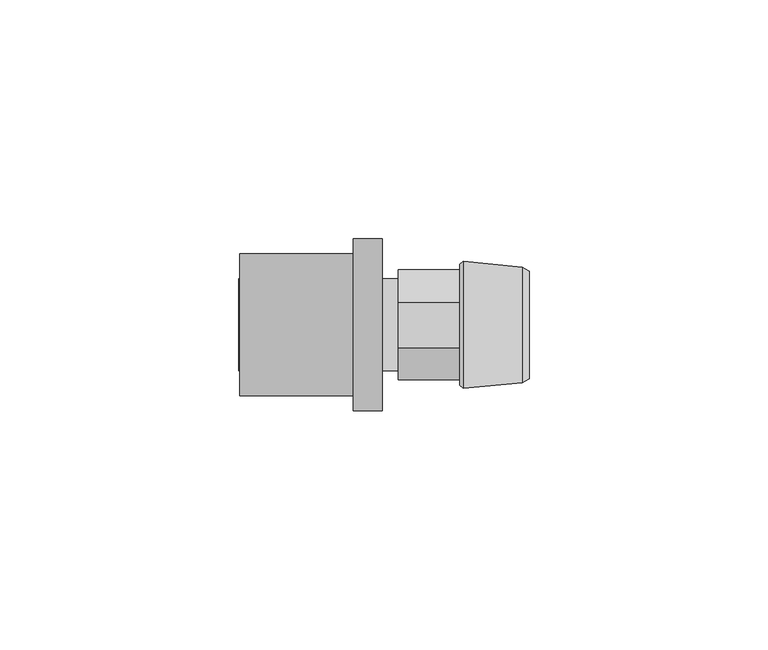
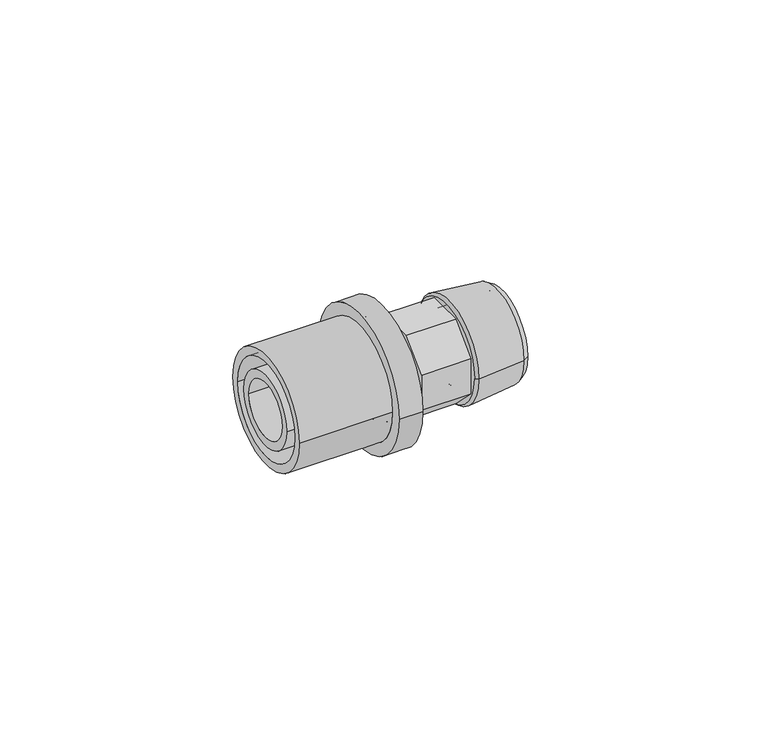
"""IFC4 building model written with IfcOpenShell, lengths in millimetres: pipe fitting geometry, FASTLOC_Adapter_RX+, with external thread : FSL A C external EX+ AT."""

from ifc_helpers import new_model, si_unit, frame, origin, place, context, project, spatial, polyline, circle_curve, outline, extrude, source, transform, mapped, element, save
from ifc_brep_helpers import plane_surface, cylinder_surface, revolved_surface, advanced_brep


def pipe_fitting_034b971a(model_context):
    return source(origin(), model_context, "Body", "SolidModel", [
        advanced_brep(
        [(-9.4, -18.0, 0.0), (-9.4, 18.0, 0.0), (-3.4, 18.0, 0.0), (-3.4, -18.0, 0.0), (-33.2, -14.85, 0.0), (-33.2, 14.85, 0.0), (-9.4, 14.85, 0.0), (-9.4, -14.85, 0.0), (-3.4, -12.65, 0.0), (-3.4, 12.65, 0.0), (-33.2, 12.65, 0.0), (-33.2, -12.65, 0.0)],
        [
            (0, 1, circle_curve(frame((-9.4, 0.0, 0.0), z_axis=(1.0, 0.0, 0.0), x_axis=(0.0, 1.0, 0.0)), 18.0)),
            (1, 2),
            (2, 3, circle_curve(frame((-3.4, 0.0, 0.0), z_axis=(-1.0, 0.0, 0.0), x_axis=(0.0, 1.0, 0.0)), 18.0)),
            (3, 0),
            (4, 5, circle_curve(frame((-33.2, 0.0, 0.0), z_axis=(1.0, 0.0, 0.0), x_axis=(0.0, 1.0, 0.0)), 14.85)),
            (5, 6),
            (6, 7, circle_curve(frame((-9.4, 0.0, 0.0), z_axis=(-1.0, 0.0, 0.0), x_axis=(0.0, 1.0, 0.0)), 14.85)),
            (7, 4),
            (8, 9, circle_curve(frame((-3.4, 0.0, 0.0), z_axis=(1.0, 0.0, 0.0), x_axis=(0.0, 1.0, 0.0)), 12.65)),
            (9, 10),
            (10, 11, circle_curve(frame((-33.2, 0.0, 0.0), z_axis=(-1.0, 0.0, 0.0), x_axis=(0.0, 1.0, 0.0)), 12.65)),
            (11, 8),
            (1, 0, circle_curve(frame((-9.4, 0.0, 0.0), z_axis=(1.0, 0.0, 0.0), x_axis=(0.0, -1.0, 0.0)), 18.0)),
            (3, 2, circle_curve(frame((-3.4, 0.0, 0.0), z_axis=(-1.0, 0.0, 0.0), x_axis=(0.0, -1.0, 0.0)), 18.0)),
            (6, 7, circle_curve(frame((-9.4, 0.0, 0.0), z_axis=(1.0, 0.0, 0.0), x_axis=(0.0, -1.0, 0.0)), 14.85)),
            (5, 4, circle_curve(frame((-33.2, 0.0, 0.0), z_axis=(1.0, 0.0, 0.0), x_axis=(0.0, -1.0, 0.0)), 14.85)),
            (10, 11, circle_curve(frame((-33.2, 0.0, 0.0), z_axis=(1.0, 0.0, 0.0), x_axis=(0.0, -1.0, 0.0)), 12.65)),
            (9, 8, circle_curve(frame((-3.4, 0.0, 0.0), z_axis=(1.0, 0.0, 0.0), x_axis=(0.0, -1.0, 0.0)), 12.65)),
        ],
        [
            cylinder_surface(frame((-3.4, 0.0, 0.0), z_axis=(-1.0, 0.0, 0.0), x_axis=(0.0, 1.0, 0.0)), 18.0),
            cylinder_surface(frame((-3.4, 0.0, 0.0), z_axis=(-1.0, 0.0, 0.0), x_axis=(0.0, 1.0, 0.0)), 14.85),
            revolved_surface(polyline([(-33.2, 12.65, 0.0), (-3.4, 12.65, 0.0)]), (-3.4, 0.0, 0.0), (-1.0, 0.0, 0.0)),
            cylinder_surface(frame((-3.4, 0.0, 0.0), z_axis=(-1.0, 0.0, 0.0), x_axis=(0.0, -1.0, 0.0)), 18.0),
            plane_surface(frame((-9.4, 0.0, 0.0), z_axis=(-1.0, 0.0, 0.0), x_axis=(0.0, -1.0, 0.0))),
            cylinder_surface(frame((-3.4, 0.0, 0.0), z_axis=(-1.0, 0.0, 0.0), x_axis=(0.0, -1.0, 0.0)), 14.85),
            plane_surface(frame((-33.2, 0.0, 0.0), z_axis=(-1.0, 0.0, 0.0), x_axis=(0.0, -1.0, 0.0))),
            revolved_surface(polyline([(-33.2, -12.65, 0.0), (-3.4, -12.65, 0.0)]), (-3.4, 0.0, 0.0), (-1.0, 0.0, 0.0)),
            plane_surface(frame((-3.4, 0.0, 0.0), z_axis=(1.0, 0.0, 0.0), x_axis=(0.0, -1.0, 0.0))),
        ],
        [
            (0, [[1, 2, 3, 4]]),
            (1, [[5, 6, 7, 8]]),
            (2, [[9, 10, 11, 12]]),
            (3, [[13, -4, 14, -2]]),
            (4, [[-13, -1], [15, -7]]),
            (5, [[16, -8, -15, -6]]),
            (6, [[-16, -5], [17, -11]]),
            (7, [[18, -12, -17, -10]]),
            (8, [[-14, -3], [-18, -9]]),
        ],
    ),
        advanced_brep(
        [(14.0032803, 9.5, 0.0), (14.0032803, -9.5, 0.0), (27.4, -9.5, 0.0), (27.4, 9.5, 0.0), (12.9, 8.3967197, 0.0), (12.9, -8.3967197, 0.0), (13.6406902, 13.3, 0.0), (13.6406902, -13.3, 0.0), (12.9, -12.7, 0.0), (12.9, 12.7, 0.0), (25.9000007, 12.1, 0.0), (25.9000007, -12.1, 0.0), (27.4, 11.25, 0.0), (27.4, -11.25, 0.0)],
        [
            (0, 1, circle_curve(frame((14.0032803, 0.0, 0.0), z_axis=(-1.0, 0.0, 0.0), x_axis=(0.0, -1.0, 0.0)), 9.5)),
            (1, 2),
            (2, 3, circle_curve(frame((27.4, 0.0, 0.0), z_axis=(1.0, 0.0, 0.0), x_axis=(0.0, -1.0, 0.0)), 9.5)),
            (3, 0),
            (4, 5, circle_curve(frame((12.9, 0.0, 0.0), z_axis=(-1.0, 0.0, 0.0), x_axis=(0.0, -1.0, 0.0)), 8.3967197)),
            (5, 1),
            (0, 4),
            (6, 7, circle_curve(frame((13.6406902, 0.0, 0.0), z_axis=(-1.0, 0.0, 0.0), x_axis=(0.0, -1.0, 0.0)), 13.3)),
            (7, 8),
            (8, 9, circle_curve(frame((12.9, 0.0, 0.0), z_axis=(1.0, 0.0, 0.0), x_axis=(0.0, -1.0, 0.0)), 12.7)),
            (9, 6),
            (10, 11, circle_curve(frame((25.9000007, 0.0, 0.0), z_axis=(-1.0, 0.0, 0.0), x_axis=(0.0, -1.0, 0.0)), 12.1)),
            (11, 7),
            (6, 10),
            (12, 13, circle_curve(frame((27.4, 0.0, 0.0), z_axis=(-1.0, 0.0, 0.0), x_axis=(0.0, -1.0, 0.0)), 11.25)),
            (13, 11),
            (10, 12),
            (1, 0, circle_curve(frame((14.0032803, 0.0, 0.0), z_axis=(-1.0, 0.0, 0.0), x_axis=(0.0, 1.0, 0.0)), 9.5)),
            (3, 2, circle_curve(frame((27.4, 0.0, 0.0), z_axis=(1.0, 0.0, 0.0), x_axis=(0.0, 1.0, 0.0)), 9.5)),
            (5, 4, circle_curve(frame((12.9, 0.0, 0.0), z_axis=(-1.0, 0.0, 0.0), x_axis=(0.0, 1.0, 0.0)), 8.3967197)),
            (8, 9, circle_curve(frame((12.9, 0.0, 0.0), z_axis=(-1.0, 0.0, 0.0), x_axis=(0.0, 1.0, 0.0)), 12.7)),
            (7, 6, circle_curve(frame((13.6406902, 0.0, 0.0), z_axis=(-1.0, 0.0, 0.0), x_axis=(0.0, 1.0, 0.0)), 13.3)),
            (11, 10, circle_curve(frame((25.9000007, 0.0, 0.0), z_axis=(-1.0, 0.0, 0.0), x_axis=(0.0, 1.0, 0.0)), 12.1)),
            (13, 12, circle_curve(frame((27.4, 0.0, 0.0), z_axis=(-1.0, 0.0, 0.0), x_axis=(0.0, 1.0, 0.0)), 11.25)),
        ],
        [
            revolved_surface(polyline([(27.4, -9.5, 0.0), (14.0032803, -9.5, 0.0)]), (0.0, 0.0, 0.0), (1.0, 0.0, 0.0)),
            revolved_surface(polyline([(14.0032803, -9.5, 0.0), (12.9, -8.3967197, 0.0)]), (0.0, 0.0, 0.0), (1.0, 0.0, 0.0)),
            revolved_surface(polyline([(12.9, -12.7, 0.0), (13.6406902, -13.3, 0.0)]), (0.0, 0.0, 0.0), (1.0, 0.0, 0.0)),
            revolved_surface(polyline([(13.6406902, -13.3, 0.0), (25.9000007, -12.1, 0.0)]), (0.0, 0.0, 0.0), (1.0, 0.0, 0.0)),
            revolved_surface(polyline([(25.9000007, -12.1, 0.0), (27.4, -11.25, 0.0)]), (0.0, 0.0, 0.0), (1.0, 0.0, 0.0)),
            revolved_surface(polyline([(27.4, 9.5, 0.0), (14.0032803, 9.5, 0.0)]), (0.0, 0.0, 0.0), (1.0, 0.0, 0.0)),
            revolved_surface(polyline([(14.0032803, 9.5, 0.0), (12.9, 8.3967197, 0.0)]), (0.0, 0.0, 0.0), (1.0, 0.0, 0.0)),
            plane_surface(frame((12.9, 0.0, 0.0), z_axis=(-1.0, 0.0, 0.0), x_axis=(0.0, 1.0, 0.0))),
            revolved_surface(polyline([(12.9, 12.7, 0.0), (13.6406902, 13.3, 0.0)]), (0.0, 0.0, 0.0), (1.0, 0.0, 0.0)),
            revolved_surface(polyline([(13.6406902, 13.3, 0.0), (25.9000007, 12.1, 0.0)]), (0.0, 0.0, 0.0), (1.0, 0.0, 0.0)),
            revolved_surface(polyline([(25.9000007, 12.1, 0.0), (27.4, 11.25, 0.0)]), (0.0, 0.0, 0.0), (1.0, 0.0, 0.0)),
            plane_surface(frame((27.4, 0.0, 0.0), z_axis=(1.0, 0.0, 0.0), x_axis=(0.0, 1.0, 0.0))),
        ],
        [
            (0, [[1, 2, 3, 4]]),
            (1, [[5, 6, -1, 7]]),
            (2, [[8, 9, 10, 11]]),
            (3, [[12, 13, -8, 14]]),
            (4, [[15, 16, -12, 17]]),
            (5, [[18, -4, 19, -2]]),
            (6, [[20, -7, -18, -6]]),
            (7, [[21, -10], [-20, -5]]),
            (8, [[22, -11, -21, -9]]),
            (9, [[23, -14, -22, -13]]),
            (10, [[24, -17, -23, -16]]),
            (11, [[-24, -15], [-19, -3]]),
        ],
    ),
        extrude(outline(polyline([(-11.5, 4.763456), (-4.763456, 11.5), (4.763456, 11.5), (11.5, 4.763456), (11.5, -4.763456), (4.763456, -11.5), (-4.763456, -11.5), (-11.5, -4.763456), (-11.5, 4.763456)])), frame((0.0, 0.0, 0.0), z_axis=(1.0, 0.0, 0.0), x_axis=(0.0, 1.0, 0.0)), (0.0, 0.0, 1.0), 12.9),
        advanced_brep(
        [(-33.4, 7.35, 0.0), (-33.4, -7.35, 0.0), (0.0, -7.35, 0.0), (0.0, 7.35, 0.0), (0.0, 9.6, 0.0), (0.0, -9.6, 0.0), (-6.6, -9.6, 0.0), (-6.6, 9.6, 0.0), (-6.6, 11.1, 0.0), (-6.6, -11.1, 0.0), (-9.4, -11.1, 0.0), (-9.4, 11.1, 0.0), (-9.4, 9.6, 0.0), (-9.4, -9.6, 0.0), (-33.4, -9.6, 0.0), (-33.4, 9.6, 0.0)],
        [
            (0, 1, circle_curve(frame((-33.4, 0.0, 0.0), z_axis=(-1.0, 0.0, 0.0), x_axis=(0.0, -1.0, 0.0)), 7.35)),
            (1, 2),
            (2, 3, circle_curve(frame((0.0, 0.0, 0.0), z_axis=(1.0, 0.0, 0.0), x_axis=(0.0, -1.0, 0.0)), 7.35)),
            (3, 0),
            (4, 5, circle_curve(frame((0.0, 0.0, 0.0), z_axis=(-1.0, 0.0, 0.0), x_axis=(0.0, -1.0, 0.0)), 9.6)),
            (5, 6),
            (6, 7, circle_curve(frame((-6.6, 0.0, 0.0), z_axis=(1.0, 0.0, 0.0), x_axis=(0.0, -1.0, 0.0)), 9.6)),
            (7, 4),
            (8, 9, circle_curve(frame((-6.6, 0.0, 0.0), z_axis=(-1.0, 0.0, 0.0), x_axis=(0.0, -1.0, 0.0)), 11.1)),
            (9, 10),
            (10, 11, circle_curve(frame((-9.4, 0.0, 0.0), z_axis=(1.0, 0.0, 0.0), x_axis=(0.0, -1.0, 0.0)), 11.1)),
            (11, 8),
            (12, 13, circle_curve(frame((-9.4, 0.0, 0.0), z_axis=(-1.0, 0.0, 0.0), x_axis=(0.0, -1.0, 0.0)), 9.6)),
            (13, 14),
            (14, 15, circle_curve(frame((-33.4, 0.0, 0.0), z_axis=(1.0, 0.0, 0.0), x_axis=(0.0, -1.0, 0.0)), 9.6)),
            (15, 12),
            (1, 0, circle_curve(frame((-33.4, 0.0, 0.0), z_axis=(-1.0, 0.0, 0.0), x_axis=(0.0, 1.0, 0.0)), 7.35)),
            (3, 2, circle_curve(frame((0.0, 0.0, 0.0), z_axis=(1.0, 0.0, 0.0), x_axis=(0.0, 1.0, 0.0)), 7.35)),
            (4, 5, circle_curve(frame((0.0, 0.0, 0.0), z_axis=(1.0, 0.0, 0.0), x_axis=(0.0, 1.0, 0.0)), 9.6)),
            (7, 6, circle_curve(frame((-6.6, 0.0, 0.0), z_axis=(1.0, 0.0, 0.0), x_axis=(0.0, 1.0, 0.0)), 9.6)),
            (8, 9, circle_curve(frame((-6.6, 0.0, 0.0), z_axis=(1.0, 0.0, 0.0), x_axis=(0.0, 1.0, 0.0)), 11.1)),
            (11, 10, circle_curve(frame((-9.4, 0.0, 0.0), z_axis=(1.0, 0.0, 0.0), x_axis=(0.0, 1.0, 0.0)), 11.1)),
            (12, 13, circle_curve(frame((-9.4, 0.0, 0.0), z_axis=(1.0, 0.0, 0.0), x_axis=(0.0, 1.0, 0.0)), 9.6)),
            (15, 14, circle_curve(frame((-33.4, 0.0, 0.0), z_axis=(1.0, 0.0, 0.0), x_axis=(0.0, 1.0, 0.0)), 9.6)),
        ],
        [
            revolved_surface(polyline([(0.0, -7.35, 0.0), (-33.4, -7.35, 0.0)]), (0.0, 0.0, 0.0), (1.0, 0.0, 0.0)),
            cylinder_surface(frame((0.0, 0.0, 0.0), z_axis=(1.0, 0.0, 0.0), x_axis=(0.0, -1.0, 0.0)), 9.6),
            cylinder_surface(frame((0.0, 0.0, 0.0), z_axis=(1.0, 0.0, 0.0), x_axis=(0.0, -1.0, 0.0)), 11.1),
            revolved_surface(polyline([(0.0, 7.35, 0.0), (-33.4, 7.35, 0.0)]), (0.0, 0.0, 0.0), (1.0, 0.0, 0.0)),
            plane_surface(frame((0.0, 0.0, 0.0), z_axis=(1.0, 0.0, 0.0), x_axis=(0.0, 1.0, 0.0))),
            cylinder_surface(frame((0.0, 0.0, 0.0), z_axis=(1.0, 0.0, 0.0), x_axis=(0.0, 1.0, 0.0)), 9.6),
            plane_surface(frame((-6.6, 0.0, 0.0), z_axis=(1.0, 0.0, 0.0), x_axis=(0.0, 1.0, 0.0))),
            cylinder_surface(frame((0.0, 0.0, 0.0), z_axis=(1.0, 0.0, 0.0), x_axis=(0.0, 1.0, 0.0)), 11.1),
            plane_surface(frame((-9.4, 0.0, 0.0), z_axis=(-1.0, 0.0, 0.0), x_axis=(0.0, 1.0, 0.0))),
            plane_surface(frame((-33.4, 0.0, 0.0), z_axis=(-1.0, 0.0, 0.0), x_axis=(0.0, 1.0, 0.0))),
        ],
        [
            (0, [[1, 2, 3, 4]]),
            (1, [[5, 6, 7, 8]]),
            (2, [[9, 10, 11, 12]]),
            (1, [[13, 14, 15, 16]]),
            (3, [[17, -4, 18, -2]]),
            (4, [[19, -5], [-18, -3]]),
            (5, [[-19, -8, 20, -6]]),
            (6, [[21, -9], [-20, -7]]),
            (7, [[-21, -12, 22, -10]]),
            (8, [[-22, -11], [23, -13]]),
            (5, [[-23, -16, 24, -14]]),
            (9, [[-24, -15], [-17, -1]]),
        ],
    ),
    ])


if __name__ == "__main__":
    model = new_model("IFC4")
    model_context = context("Model", 3, world=origin())
    ifc_project = project(units=[si_unit("LENGTHUNIT", "METRE", prefix="MILLI")], contexts=[model_context])
    site = spatial("IfcSite", under=ifc_project)
    building = spatial("IfcBuilding", under=site)
    placement = place(None, origin())
    pipe_fitting_shape = pipe_fitting_034b971a(model_context)
    element("IfcPipeFitting", 1, ObjectType="FASTLOC_Adapter_RX+, with external thread : FSL A C external EX+ AT", at=placement, inside=building, context=model_context, shape_type="MappedRepresentation", body=[
        mapped(pipe_fitting_shape, transform((0.0, 0.0, 0.0), x_axis=(1.0, 0.0, 0.0), y_axis=(0.0, 1.0, 0.0), z_axis=(0.0, 0.0, 1.0))),
    ])
    save(model, "model.ifc")
